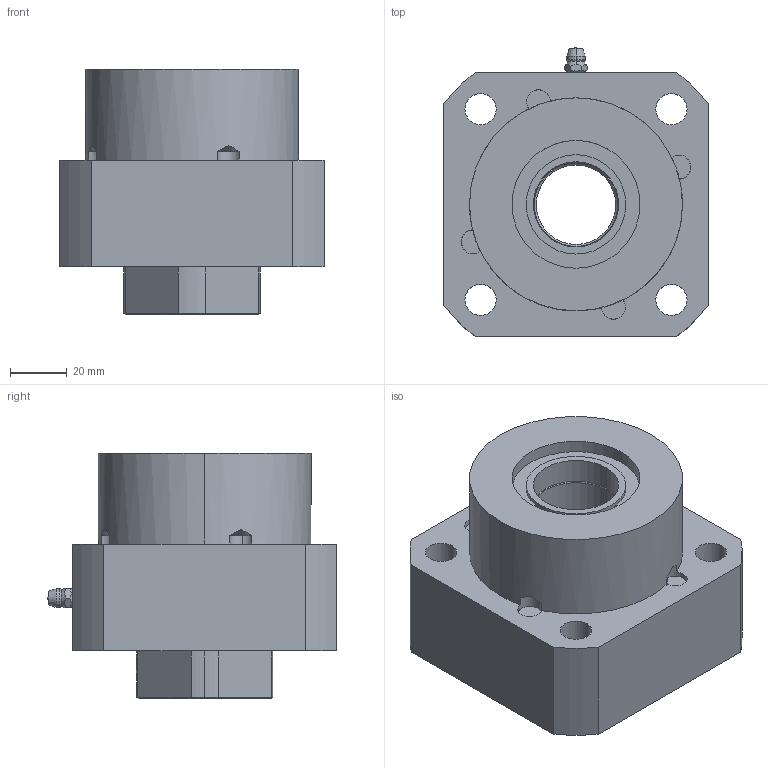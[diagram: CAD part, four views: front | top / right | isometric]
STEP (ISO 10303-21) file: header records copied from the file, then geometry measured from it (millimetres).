
FILE_DESCRIPTION (( 'STEP AP203' ), '1' );
FILE_NAME ('FK30G.STEP', '2018-09-15T04:02:28', ( '' ), ( '' ), 'SwSTEP 2.0', 'SolidWorks 2015', '' );
FILE_SCHEMA (( 'CONFIG_CONTROL_DESIGN' ));
Length unit declared in the file: millimetre
Products named in the file (1): FK30G
Bounding box: 93 x 101.9 x 86.5 mm (x, y, z)
Volume: 366966.9 mm3; surface area: 83199.2 mm2
Topology: 1 solids, 12 shells, 380 faces, 868 edges, 529 vertices
Faces by surface type: cylinder 131, plane 131, cone 63, torus 48, bspline 7
Entity records: 11192 total; most frequent: CARTESIAN_POINT 2314, DIRECTION 2014, ORIENTED_EDGE 1712, EDGE_CURVE 856, AXIS2_PLACEMENT_3D 835, VERTEX_POINT 529, CIRCLE 461, EDGE_LOOP 441
